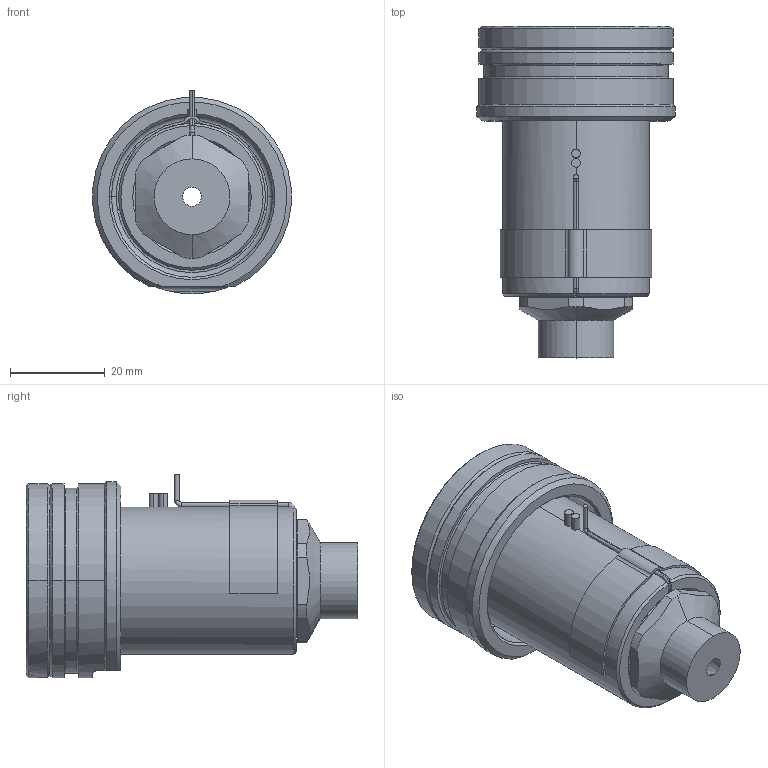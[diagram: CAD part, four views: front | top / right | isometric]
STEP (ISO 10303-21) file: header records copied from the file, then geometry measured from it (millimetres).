
FILE_DESCRIPTION((''),'2;1');
FILE_NAME('EO12_VG-FB_STD_050_SW','2024-02-19T13:36:46',('sundharh'),(''),'CREO PARAMETRIC BY PTC INC, 2023154','CREO PARAMETRIC BY PTC INC, 2023154','');
FILE_SCHEMA(('CONFIG_CONTROL_DESIGN'));
Length unit declared in the file: millimetre
Products named in the file (1): EO12_VG-FB_STD_050_SW
Bounding box: 41.85 x 70 x 43 mm (x, y, z)
Volume: 48495.1 mm3; surface area: 17042.6 mm2
Topology: 2 solids, 3 shells, 210 faces, 519 edges, 314 vertices
Faces by surface type: cylinder 73, plane 48, cone 41, torus 37, bspline 9, sphere 2
Entity records: 7031 total; most frequent: CARTESIAN_POINT 1930, DIRECTION 1142, ORIENTED_EDGE 1034, EDGE_CURVE 517, AXIS2_PLACEMENT_3D 483, VERTEX_POINT 314, CIRCLE 282, EDGE_LOOP 227
